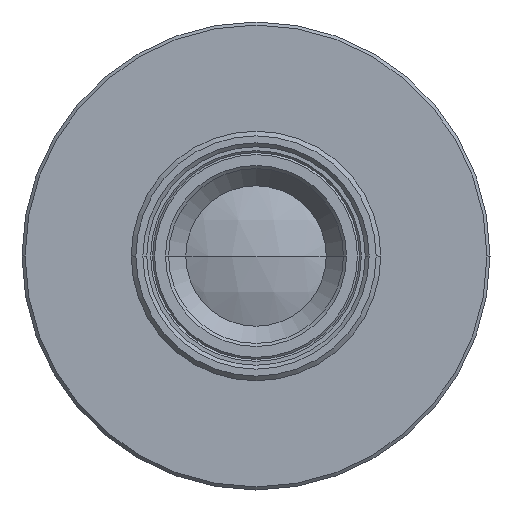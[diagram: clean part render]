
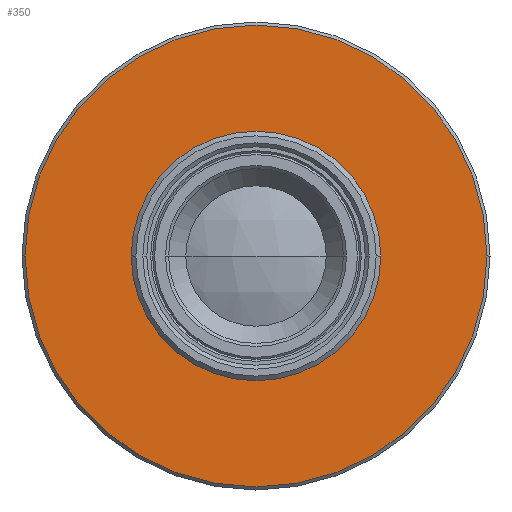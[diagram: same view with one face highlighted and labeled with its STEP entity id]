
A CAD part, left-side view. The second image highlights one B-rep face of the part: STEP entity #350.
In plain terms, the highlighted planar face has unit normal (-1, 0, 0).
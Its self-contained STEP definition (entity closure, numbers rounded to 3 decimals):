
#14 = EDGE_CURVE ( 'NONE', #626, #624, #220, .T. ) ;
#51 = EDGE_CURVE ( 'NONE', #1284, #396, #1435, .T. ) ;
#66 = CARTESIAN_POINT ( 'NONE',  ( -19.526, 0., 0. ) ) ;
#97 = CARTESIAN_POINT ( 'NONE',  ( -19.526, -14.8, 0. ) ) ;
#145 = CIRCLE ( 'NONE', #1462, 14.8 ) ;
#150 = ORIENTED_EDGE ( 'NONE', *, *, #14, .F. ) ;
#220 = CIRCLE ( 'NONE', #1178, 8. ) ;
#246 = PLANE ( 'NONE',  #830 ) ;
#259 = EDGE_CURVE ( 'NONE', #396, #1284, #145, .T. ) ;
#350 = ADVANCED_FACE ( 'NONE', ( #992, #1631 ), #246, .F. ) ;
#372 = CARTESIAN_POINT ( 'NONE',  ( -19.526, 8., 0. ) ) ;
#376 = CIRCLE ( 'NONE', #1177, 8. ) ;
#384 = ORIENTED_EDGE ( 'NONE', *, *, #51, .T. ) ;
#396 = VERTEX_POINT ( 'NONE', #1118 ) ;
#520 = DIRECTION ( 'NONE',  ( 0., -1., 0. ) ) ;
#624 = VERTEX_POINT ( 'NONE', #1557 ) ;
#626 = VERTEX_POINT ( 'NONE', #1314 ) ;
#747 = DIRECTION ( 'NONE',  ( 1., 0., 0. ) ) ;
#809 = DIRECTION ( 'NONE',  ( 0., -1., 0. ) ) ;
#826 = CARTESIAN_POINT ( 'NONE',  ( -19.526, 0., 0. ) ) ;
#830 = AXIS2_PLACEMENT_3D ( 'NONE', #372, #747, #1619 ) ;
#890 = DIRECTION ( 'NONE',  ( 0., -1., 0. ) ) ;
#914 = EDGE_LOOP ( 'NONE', ( #1396, #384 ) ) ;
#929 = EDGE_CURVE ( 'NONE', #624, #626, #376, .T. ) ;
#992 = FACE_BOUND ( 'NONE', #1176, .T. ) ;
#1118 = CARTESIAN_POINT ( 'NONE',  ( -19.526, 14.8, 0. ) ) ;
#1163 = CARTESIAN_POINT ( 'NONE',  ( -19.526, 0., 0. ) ) ;
#1176 = EDGE_LOOP ( 'NONE', ( #1458, #150 ) ) ;
#1177 = AXIS2_PLACEMENT_3D ( 'NONE', #1163, #1405, #520 ) ;
#1178 = AXIS2_PLACEMENT_3D ( 'NONE', #1560, #1267, #890 ) ;
#1221 = DIRECTION ( 'NONE',  ( -1., 0., 0. ) ) ;
#1267 = DIRECTION ( 'NONE',  ( -1., 0., 0. ) ) ;
#1284 = VERTEX_POINT ( 'NONE', #97 ) ;
#1301 = AXIS2_PLACEMENT_3D ( 'NONE', #66, #1444, #809 ) ;
#1314 = CARTESIAN_POINT ( 'NONE',  ( -19.526, 8., 0. ) ) ;
#1346 = DIRECTION ( 'NONE',  ( 0., -1., 0. ) ) ;
#1396 = ORIENTED_EDGE ( 'NONE', *, *, #259, .T. ) ;
#1405 = DIRECTION ( 'NONE',  ( -1., 0., 0. ) ) ;
#1435 = CIRCLE ( 'NONE', #1301, 14.8 ) ;
#1444 = DIRECTION ( 'NONE',  ( -1., 0., 0. ) ) ;
#1458 = ORIENTED_EDGE ( 'NONE', *, *, #929, .F. ) ;
#1462 = AXIS2_PLACEMENT_3D ( 'NONE', #826, #1221, #1346 ) ;
#1557 = CARTESIAN_POINT ( 'NONE',  ( -19.526, -8., 0. ) ) ;
#1560 = CARTESIAN_POINT ( 'NONE',  ( -19.526, 0., 0. ) ) ;
#1619 = DIRECTION ( 'NONE',  ( 0., 1., 0. ) ) ;
#1631 = FACE_OUTER_BOUND ( 'NONE', #914, .T. ) ;
